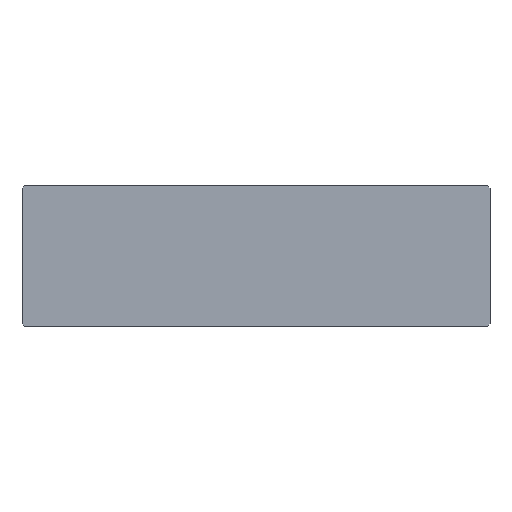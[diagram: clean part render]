
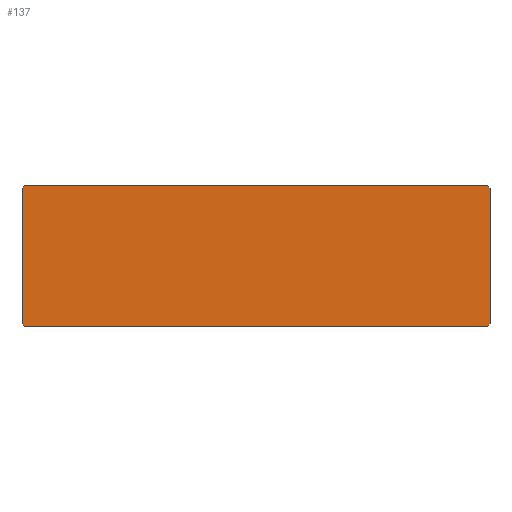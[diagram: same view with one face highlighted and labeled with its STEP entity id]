
A CAD part, top view. The second image highlights one B-rep face of the part: STEP entity #137.
In plain terms, the highlighted planar face has unit normal (0, 0, 1).
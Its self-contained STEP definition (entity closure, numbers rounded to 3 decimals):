
#21 = EDGE_CURVE('',#22,#24,#26,.T.);
#22 = VERTEX_POINT('',#23);
#23 = CARTESIAN_POINT('',(0.,2.,18.));
#24 = VERTEX_POINT('',#25);
#25 = CARTESIAN_POINT('',(0.,118.,18.));
#26 = SURFACE_CURVE('',#27,(#31,#43),.PCURVE_S1.);
#27 = LINE('',#28,#29);
#28 = CARTESIAN_POINT('',(0.,0.,18.));
#29 = VECTOR('',#30,1.);
#30 = DIRECTION('',(0.,1.,0.));
#31 = PCURVE('',#32,#37);
#32 = PLANE('',#33);
#33 = AXIS2_PLACEMENT_3D('',#34,#35,#36);
#34 = CARTESIAN_POINT('',(0.,0.,0.));
#35 = DIRECTION('',(1.,0.,0.));
#36 = DIRECTION('',(0.,0.,1.));
#37 = DEFINITIONAL_REPRESENTATION('',(#38),#42);
#38 = LINE('',#39,#40);
#39 = CARTESIAN_POINT('',(18.,0.));
#40 = VECTOR('',#41,1.);
#41 = DIRECTION('',(0.,-1.));
#42 = ( GEOMETRIC_REPRESENTATION_CONTEXT(2) 
PARAMETRIC_REPRESENTATION_CONTEXT() REPRESENTATION_CONTEXT('2D SPACE',''
  ) );
#43 = PCURVE('',#44,#49);
#44 = PLANE('',#45);
#45 = AXIS2_PLACEMENT_3D('',#46,#47,#48);
#46 = CARTESIAN_POINT('',(0.,0.,18.));
#47 = DIRECTION('',(0.,0.,1.));
#48 = DIRECTION('',(1.,0.,0.));
#49 = DEFINITIONAL_REPRESENTATION('',(#50),#54);
#50 = LINE('',#51,#52);
#51 = CARTESIAN_POINT('',(0.,0.));
#52 = VECTOR('',#53,1.);
#53 = DIRECTION('',(0.,1.));
#54 = ( GEOMETRIC_REPRESENTATION_CONTEXT(2) 
PARAMETRIC_REPRESENTATION_CONTEXT() REPRESENTATION_CONTEXT('2D SPACE',''
  ) );
#72 = PLANE('',#73);
#73 = AXIS2_PLACEMENT_3D('',#74,#75,#76);
#74 = CARTESIAN_POINT('',(1.,1.,0.));
#75 = DIRECTION('',(-0.707,-0.707,0.));
#76 = DIRECTION('',(-0.,-0.,-1.));
#126 = PLANE('',#127);
#127 = AXIS2_PLACEMENT_3D('',#128,#129,#130);
#128 = CARTESIAN_POINT('',(1.,119.,0.));
#129 = DIRECTION('',(0.707,-0.707,0.));
#130 = DIRECTION('',(-0.,-0.,-1.));
#137 = ADVANCED_FACE('',(#138),#44,.T.);
#138 = FACE_BOUND('',#139,.T.);
#139 = EDGE_LOOP('',(#140,#141,#164,#192,#220,#248,#276,#304));
#140 = ORIENTED_EDGE('',*,*,#21,.F.);
#141 = ORIENTED_EDGE('',*,*,#142,.T.);
#142 = EDGE_CURVE('',#22,#143,#145,.T.);
#143 = VERTEX_POINT('',#144);
#144 = CARTESIAN_POINT('',(2.,0.,18.));
#145 = SURFACE_CURVE('',#146,(#150,#157),.PCURVE_S1.);
#146 = LINE('',#147,#148);
#147 = CARTESIAN_POINT('',(1.,1.,18.));
#148 = VECTOR('',#149,1.);
#149 = DIRECTION('',(0.707,-0.707,0.));
#150 = PCURVE('',#44,#151);
#151 = DEFINITIONAL_REPRESENTATION('',(#152),#156);
#152 = LINE('',#153,#154);
#153 = CARTESIAN_POINT('',(1.,1.));
#154 = VECTOR('',#155,1.);
#155 = DIRECTION('',(0.707,-0.707));
#156 = ( GEOMETRIC_REPRESENTATION_CONTEXT(2) 
PARAMETRIC_REPRESENTATION_CONTEXT() REPRESENTATION_CONTEXT('2D SPACE',''
  ) );
#157 = PCURVE('',#72,#158);
#158 = DEFINITIONAL_REPRESENTATION('',(#159),#163);
#159 = LINE('',#160,#161);
#160 = CARTESIAN_POINT('',(-18.,0.));
#161 = VECTOR('',#162,1.);
#162 = DIRECTION('',(-0.,1.));
#163 = ( GEOMETRIC_REPRESENTATION_CONTEXT(2) 
PARAMETRIC_REPRESENTATION_CONTEXT() REPRESENTATION_CONTEXT('2D SPACE',''
  ) );
#164 = ORIENTED_EDGE('',*,*,#165,.T.);
#165 = EDGE_CURVE('',#143,#166,#168,.T.);
#166 = VERTEX_POINT('',#167);
#167 = CARTESIAN_POINT('',(398.,0.,18.));
#168 = SURFACE_CURVE('',#169,(#173,#180),.PCURVE_S1.);
#169 = LINE('',#170,#171);
#170 = CARTESIAN_POINT('',(0.,0.,18.));
#171 = VECTOR('',#172,1.);
#172 = DIRECTION('',(1.,0.,0.));
#173 = PCURVE('',#44,#174);
#174 = DEFINITIONAL_REPRESENTATION('',(#175),#179);
#175 = LINE('',#176,#177);
#176 = CARTESIAN_POINT('',(0.,0.));
#177 = VECTOR('',#178,1.);
#178 = DIRECTION('',(1.,0.));
#179 = ( GEOMETRIC_REPRESENTATION_CONTEXT(2) 
PARAMETRIC_REPRESENTATION_CONTEXT() REPRESENTATION_CONTEXT('2D SPACE',''
  ) );
#180 = PCURVE('',#181,#186);
#181 = PLANE('',#182);
#182 = AXIS2_PLACEMENT_3D('',#183,#184,#185);
#183 = CARTESIAN_POINT('',(0.,0.,0.));
#184 = DIRECTION('',(0.,1.,0.));
#185 = DIRECTION('',(0.,0.,1.));
#186 = DEFINITIONAL_REPRESENTATION('',(#187),#191);
#187 = LINE('',#188,#189);
#188 = CARTESIAN_POINT('',(18.,0.));
#189 = VECTOR('',#190,1.);
#190 = DIRECTION('',(0.,1.));
#191 = ( GEOMETRIC_REPRESENTATION_CONTEXT(2) 
PARAMETRIC_REPRESENTATION_CONTEXT() REPRESENTATION_CONTEXT('2D SPACE',''
  ) );
#192 = ORIENTED_EDGE('',*,*,#193,.F.);
#193 = EDGE_CURVE('',#194,#166,#196,.T.);
#194 = VERTEX_POINT('',#195);
#195 = CARTESIAN_POINT('',(400.,2.,18.));
#196 = SURFACE_CURVE('',#197,(#201,#208),.PCURVE_S1.);
#197 = LINE('',#198,#199);
#198 = CARTESIAN_POINT('',(299.,-99.,18.));
#199 = VECTOR('',#200,1.);
#200 = DIRECTION('',(-0.707,-0.707,0.));
#201 = PCURVE('',#44,#202);
#202 = DEFINITIONAL_REPRESENTATION('',(#203),#207);
#203 = LINE('',#204,#205);
#204 = CARTESIAN_POINT('',(299.,-99.));
#205 = VECTOR('',#206,1.);
#206 = DIRECTION('',(-0.707,-0.707));
#207 = ( GEOMETRIC_REPRESENTATION_CONTEXT(2) 
PARAMETRIC_REPRESENTATION_CONTEXT() REPRESENTATION_CONTEXT('2D SPACE',''
  ) );
#208 = PCURVE('',#209,#214);
#209 = PLANE('',#210);
#210 = AXIS2_PLACEMENT_3D('',#211,#212,#213);
#211 = CARTESIAN_POINT('',(399.,1.,0.));
#212 = DIRECTION('',(-0.707,0.707,0.));
#213 = DIRECTION('',(-0.,-0.,-1.));
#214 = DEFINITIONAL_REPRESENTATION('',(#215),#219);
#215 = LINE('',#216,#217);
#216 = CARTESIAN_POINT('',(-18.,141.421));
#217 = VECTOR('',#218,1.);
#218 = DIRECTION('',(-0.,1.));
#219 = ( GEOMETRIC_REPRESENTATION_CONTEXT(2) 
PARAMETRIC_REPRESENTATION_CONTEXT() REPRESENTATION_CONTEXT('2D SPACE',''
  ) );
#220 = ORIENTED_EDGE('',*,*,#221,.T.);
#221 = EDGE_CURVE('',#194,#222,#224,.T.);
#222 = VERTEX_POINT('',#223);
#223 = CARTESIAN_POINT('',(400.,118.,18.));
#224 = SURFACE_CURVE('',#225,(#229,#236),.PCURVE_S1.);
#225 = LINE('',#226,#227);
#226 = CARTESIAN_POINT('',(400.,0.,18.));
#227 = VECTOR('',#228,1.);
#228 = DIRECTION('',(0.,1.,0.));
#229 = PCURVE('',#44,#230);
#230 = DEFINITIONAL_REPRESENTATION('',(#231),#235);
#231 = LINE('',#232,#233);
#232 = CARTESIAN_POINT('',(400.,0.));
#233 = VECTOR('',#234,1.);
#234 = DIRECTION('',(0.,1.));
#235 = ( GEOMETRIC_REPRESENTATION_CONTEXT(2) 
PARAMETRIC_REPRESENTATION_CONTEXT() REPRESENTATION_CONTEXT('2D SPACE',''
  ) );
#236 = PCURVE('',#237,#242);
#237 = PLANE('',#238);
#238 = AXIS2_PLACEMENT_3D('',#239,#240,#241);
#239 = CARTESIAN_POINT('',(400.,0.,0.));
#240 = DIRECTION('',(1.,0.,0.));
#241 = DIRECTION('',(0.,0.,1.));
#242 = DEFINITIONAL_REPRESENTATION('',(#243),#247);
#243 = LINE('',#244,#245);
#244 = CARTESIAN_POINT('',(18.,0.));
#245 = VECTOR('',#246,1.);
#246 = DIRECTION('',(0.,-1.));
#247 = ( GEOMETRIC_REPRESENTATION_CONTEXT(2) 
PARAMETRIC_REPRESENTATION_CONTEXT() REPRESENTATION_CONTEXT('2D SPACE',''
  ) );
#248 = ORIENTED_EDGE('',*,*,#249,.T.);
#249 = EDGE_CURVE('',#222,#250,#252,.T.);
#250 = VERTEX_POINT('',#251);
#251 = CARTESIAN_POINT('',(398.,120.,18.));
#252 = SURFACE_CURVE('',#253,(#257,#264),.PCURVE_S1.);
#253 = LINE('',#254,#255);
#254 = CARTESIAN_POINT('',(329.,189.,18.));
#255 = VECTOR('',#256,1.);
#256 = DIRECTION('',(-0.707,0.707,0.));
#257 = PCURVE('',#44,#258);
#258 = DEFINITIONAL_REPRESENTATION('',(#259),#263);
#259 = LINE('',#260,#261);
#260 = CARTESIAN_POINT('',(329.,189.));
#261 = VECTOR('',#262,1.);
#262 = DIRECTION('',(-0.707,0.707));
#263 = ( GEOMETRIC_REPRESENTATION_CONTEXT(2) 
PARAMETRIC_REPRESENTATION_CONTEXT() REPRESENTATION_CONTEXT('2D SPACE',''
  ) );
#264 = PCURVE('',#265,#270);
#265 = PLANE('',#266);
#266 = AXIS2_PLACEMENT_3D('',#267,#268,#269);
#267 = CARTESIAN_POINT('',(399.,119.,0.));
#268 = DIRECTION('',(0.707,0.707,0.));
#269 = DIRECTION('',(-0.,0.,-1.));
#270 = DEFINITIONAL_REPRESENTATION('',(#271),#275);
#271 = LINE('',#272,#273);
#272 = CARTESIAN_POINT('',(-18.,98.995));
#273 = VECTOR('',#274,1.);
#274 = DIRECTION('',(-0.,1.));
#275 = ( GEOMETRIC_REPRESENTATION_CONTEXT(2) 
PARAMETRIC_REPRESENTATION_CONTEXT() REPRESENTATION_CONTEXT('2D SPACE',''
  ) );
#276 = ORIENTED_EDGE('',*,*,#277,.F.);
#277 = EDGE_CURVE('',#278,#250,#280,.T.);
#278 = VERTEX_POINT('',#279);
#279 = CARTESIAN_POINT('',(2.,120.,18.));
#280 = SURFACE_CURVE('',#281,(#285,#292),.PCURVE_S1.);
#281 = LINE('',#282,#283);
#282 = CARTESIAN_POINT('',(0.,120.,18.));
#283 = VECTOR('',#284,1.);
#284 = DIRECTION('',(1.,0.,0.));
#285 = PCURVE('',#44,#286);
#286 = DEFINITIONAL_REPRESENTATION('',(#287),#291);
#287 = LINE('',#288,#289);
#288 = CARTESIAN_POINT('',(0.,120.));
#289 = VECTOR('',#290,1.);
#290 = DIRECTION('',(1.,0.));
#291 = ( GEOMETRIC_REPRESENTATION_CONTEXT(2) 
PARAMETRIC_REPRESENTATION_CONTEXT() REPRESENTATION_CONTEXT('2D SPACE',''
  ) );
#292 = PCURVE('',#293,#298);
#293 = PLANE('',#294);
#294 = AXIS2_PLACEMENT_3D('',#295,#296,#297);
#295 = CARTESIAN_POINT('',(0.,120.,0.));
#296 = DIRECTION('',(0.,1.,0.));
#297 = DIRECTION('',(0.,0.,1.));
#298 = DEFINITIONAL_REPRESENTATION('',(#299),#303);
#299 = LINE('',#300,#301);
#300 = CARTESIAN_POINT('',(18.,0.));
#301 = VECTOR('',#302,1.);
#302 = DIRECTION('',(0.,1.));
#303 = ( GEOMETRIC_REPRESENTATION_CONTEXT(2) 
PARAMETRIC_REPRESENTATION_CONTEXT() REPRESENTATION_CONTEXT('2D SPACE',''
  ) );
#304 = ORIENTED_EDGE('',*,*,#305,.F.);
#305 = EDGE_CURVE('',#24,#278,#306,.T.);
#306 = SURFACE_CURVE('',#307,(#311,#318),.PCURVE_S1.);
#307 = LINE('',#308,#309);
#308 = CARTESIAN_POINT('',(-29.,89.,18.));
#309 = VECTOR('',#310,1.);
#310 = DIRECTION('',(0.707,0.707,-0.));
#311 = PCURVE('',#44,#312);
#312 = DEFINITIONAL_REPRESENTATION('',(#313),#317);
#313 = LINE('',#314,#315);
#314 = CARTESIAN_POINT('',(-29.,89.));
#315 = VECTOR('',#316,1.);
#316 = DIRECTION('',(0.707,0.707));
#317 = ( GEOMETRIC_REPRESENTATION_CONTEXT(2) 
PARAMETRIC_REPRESENTATION_CONTEXT() REPRESENTATION_CONTEXT('2D SPACE',''
  ) );
#318 = PCURVE('',#126,#319);
#319 = DEFINITIONAL_REPRESENTATION('',(#320),#324);
#320 = LINE('',#321,#322);
#321 = CARTESIAN_POINT('',(-18.,-42.426));
#322 = VECTOR('',#323,1.);
#323 = DIRECTION('',(-0.,1.));
#324 = ( GEOMETRIC_REPRESENTATION_CONTEXT(2) 
PARAMETRIC_REPRESENTATION_CONTEXT() REPRESENTATION_CONTEXT('2D SPACE',''
  ) );
